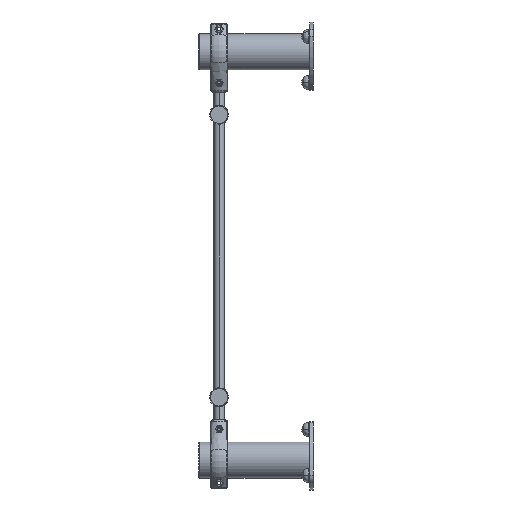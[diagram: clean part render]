
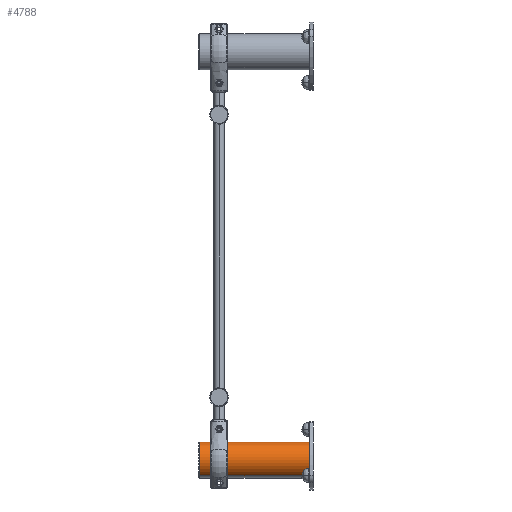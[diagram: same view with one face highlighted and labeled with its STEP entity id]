
A CAD part, left-side view. The second image highlights one B-rep face of the part: STEP entity #4788.
In plain terms, the highlighted cylindrical face has radius 57.15 mm (diameter 114.3 mm), a partial arc.
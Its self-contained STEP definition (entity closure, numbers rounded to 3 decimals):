
#2189 = CARTESIAN_POINT ( 'NONE',  ( -946.425, 12., -600.507 ) ) ;
#4272 = CIRCLE ( 'NONE', #64879, 57.15 ) ;
#4788 = ADVANCED_FACE ( 'NONE', ( #15267 ), #41743, .T. ) ;
#5633 = ORIENTED_EDGE ( 'NONE', *, *, #37504, .F. ) ;
#12719 = VERTEX_POINT ( 'NONE', #69236 ) ;
#13601 = VECTOR ( 'NONE', #57005, 1000. ) ;
#14548 = DIRECTION ( 'NONE',  ( 0., 1., 0. ) ) ;
#15267 = FACE_OUTER_BOUND ( 'NONE', #22278, .T. ) ;
#17273 = ORIENTED_EDGE ( 'NONE', *, *, #42147, .F. ) ;
#18678 = LINE ( 'NONE', #2189, #13601 ) ;
#20725 = ORIENTED_EDGE ( 'NONE', *, *, #41398, .T. ) ;
#21971 = CARTESIAN_POINT ( 'NONE',  ( -975., 362., -650. ) ) ;
#22278 = EDGE_LOOP ( 'NONE', ( #17273, #55929, #20725, #5633 ) ) ;
#25634 = DIRECTION ( 'NONE',  ( -0.5, 0., -0.866 ) ) ;
#27514 = DIRECTION ( 'NONE',  ( 0., 1., 0. ) ) ;
#31376 = EDGE_CURVE ( 'NONE', #65474, #44647, #18678, .T. ) ;
#34069 = CARTESIAN_POINT ( 'NONE',  ( -1003.575, 362., -699.493 ) ) ;
#34126 = DIRECTION ( 'NONE',  ( 0.5, 0., 0.866 ) ) ;
#37504 = EDGE_CURVE ( 'NONE', #12719, #45596, #38231, .T. ) ;
#37989 = AXIS2_PLACEMENT_3D ( 'NONE', #63642, #14548, #25634 ) ;
#38231 = LINE ( 'NONE', #48994, #38485 ) ;
#38485 = VECTOR ( 'NONE', #27514, 1000. ) ;
#41398 = EDGE_CURVE ( 'NONE', #44647, #45596, #57972, .T. ) ;
#41442 = DIRECTION ( 'NONE',  ( 0.5, 0., 0.866 ) ) ;
#41743 = CYLINDRICAL_SURFACE ( 'NONE', #37989, 57.15 ) ;
#42147 = EDGE_CURVE ( 'NONE', #65474, #12719, #4272, .T. ) ;
#44135 = DIRECTION ( 'NONE',  ( 0., -1., 0. ) ) ;
#44180 = CARTESIAN_POINT ( 'NONE',  ( -946.425, 12., -600.507 ) ) ;
#44647 = VERTEX_POINT ( 'NONE', #53652 ) ;
#45596 = VERTEX_POINT ( 'NONE', #34069 ) ;
#46416 = CARTESIAN_POINT ( 'NONE',  ( -975., 12., -650. ) ) ;
#48994 = CARTESIAN_POINT ( 'NONE',  ( -1003.575, 12., -699.493 ) ) ;
#51064 = AXIS2_PLACEMENT_3D ( 'NONE', #21971, #44135, #34126 ) ;
#53652 = CARTESIAN_POINT ( 'NONE',  ( -946.425, 362., -600.507 ) ) ;
#55929 = ORIENTED_EDGE ( 'NONE', *, *, #31376, .T. ) ;
#56521 = DIRECTION ( 'NONE',  ( 0., -1., 0. ) ) ;
#57005 = DIRECTION ( 'NONE',  ( 0., 1., 0. ) ) ;
#57972 = CIRCLE ( 'NONE', #51064, 57.15 ) ;
#63642 = CARTESIAN_POINT ( 'NONE',  ( -975., 12., -650. ) ) ;
#64879 = AXIS2_PLACEMENT_3D ( 'NONE', #46416, #56521, #41442 ) ;
#65474 = VERTEX_POINT ( 'NONE', #44180 ) ;
#69236 = CARTESIAN_POINT ( 'NONE',  ( -1003.575, 12., -699.493 ) ) ;
